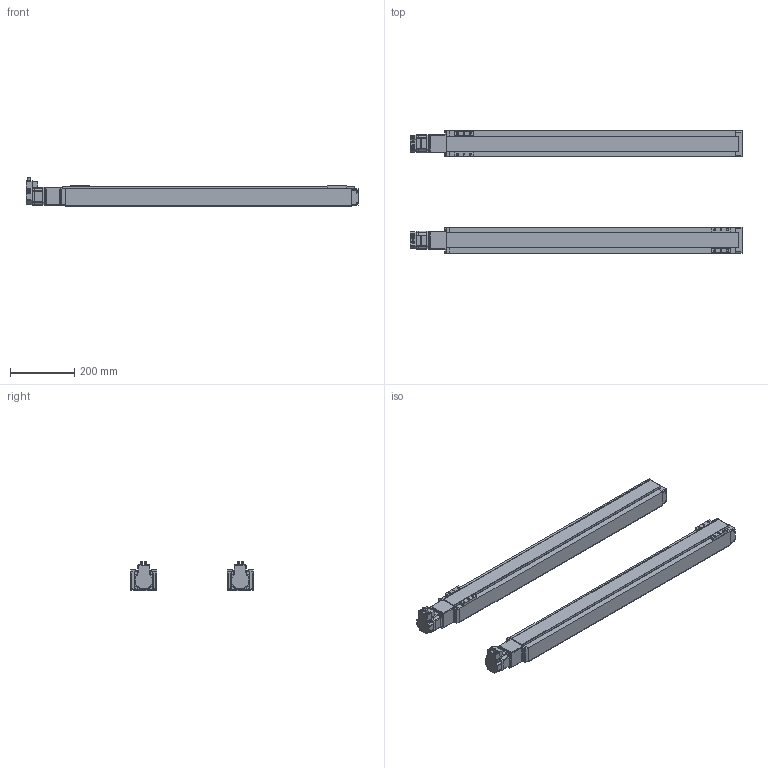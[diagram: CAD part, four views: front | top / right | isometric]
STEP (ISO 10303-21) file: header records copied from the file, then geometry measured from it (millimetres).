
FILE_DESCRIPTION(('FreeCAD Model'),'2;1');
FILE_NAME('Open CASCADE Shape Model','2023-08-01T15:26:04',('Author'),( ''),'Open CASCADE STEP processor 7.5','FreeCAD','Unknown');
FILE_SCHEMA(('AUTOMOTIVE_DESIGN { 1 0 10303 214 1 1 1 1 }'));
Length unit declared in the file: millimetre
Products named in the file (47): Unnamed; Shapes; Shapes001; Shapes002; Shapes003; Shapes004; Shapes005; Shapes006; Shapes007; Shapes008; Shapes009; Shapes010; Shapes011; Shapes012; Shapes013; Shapes014; Shapes015; Shapes016; Shapes017; Shapes018; Shapes019; Shapes020; Shapes021; Shapes022; Shapes023; Shapes024; Shapes025; Shapes026; Shapes027; Shapes028; Shapes029; Shapes030; Shapes031; Shapes032; Shapes033; Shapes034; Shapes035; Shapes036; Shapes037; Shapes038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
Assembly tree (46 placements, depth 2):
  Unnamed
    Shapes
    Shapes001
    Shapes002
    Shapes003
    Shapes004
    Shapes005
    Shapes006
    Shapes007
    Shapes008
    Shapes009
    Shapes010
    Shapes011
    Shapes012
    Shapes013
    Shapes014
    Shapes015
    Shapes016
    Shapes017
    Shapes018
    Shapes019
    Shapes020
    Shapes021
    Shapes022
    Shapes023
    Shapes024
    Shapes025
    Shapes026
    Shapes027
    Shapes028
    Shapes029
    Shapes030
    Shapes031
    Shapes032
    Shapes033
    Shapes034
    Shapes035
    Shapes036
    Shapes037
    Shapes038
    Shapes039
    Shapes040
    Shapes041
    Shapes042
    Shapes043
    Shapes044
    Shapes045
Bounding box: 1032.6 x 380 x 91.1 mm (x, y, z)
Volume: 9527917.7 mm3; surface area: 1401913.7 mm2
Topology: 46 solids, 46 shells, 1336 faces, 3478 edges, 2228 vertices
Faces by surface type: cylinder 788, plane 406, torus 104, bspline 18, sphere 16, revolution 4
Entity records: 321888 total; most frequent: CARTESIAN_POINT 251175, DIRECTION 13399, LINE 7417, VECTOR 7417, ORIENTED_EDGE 6924, PCURVE 6924, DEFINITIONAL_REPRESENTATION 6924, EDGE_CURVE 3462
